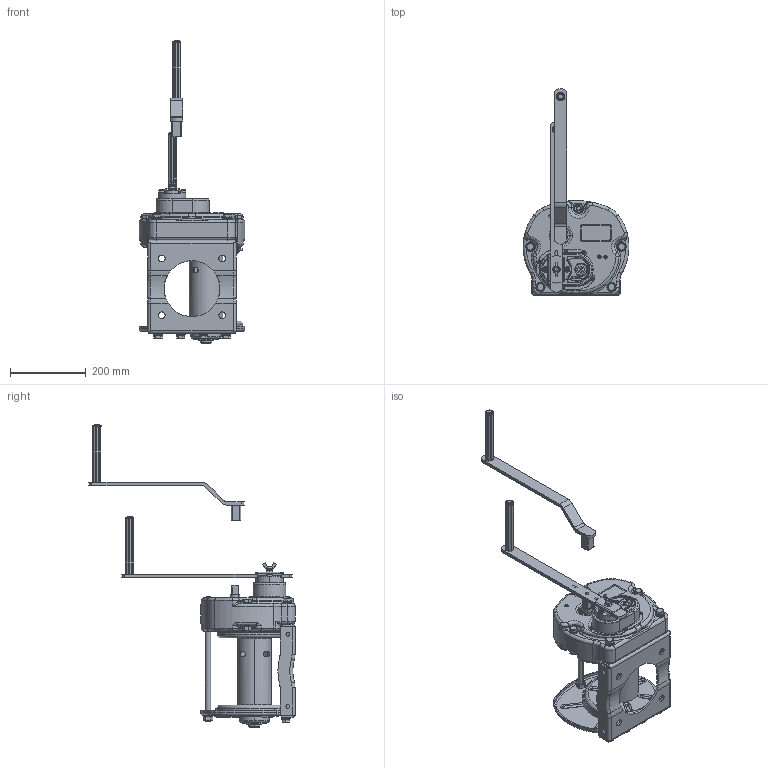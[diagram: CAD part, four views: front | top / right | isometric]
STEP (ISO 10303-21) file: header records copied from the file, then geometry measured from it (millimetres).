
FILE_DESCRIPTION( (''), '2;1');
FILE_NAME ('GM-20-SI.stp','2023-12-21T16:10:59',(''),(''),'spGate 19.8.2 (****-****-****-****)','','');
FILE_SCHEMA (('AUTOMOTIVE_DESIGN'));
Length unit declared in the file: millimetre
Products named in the file (4): Assembly; GM-20-SI-prt0; GM-20-SI-prt1; GM-20-SI-prt2
Assembly tree (3 placements, depth 2):
  Assembly
    GM-20-SI-prt0
    GM-20-SI-prt1
    GM-20-SI-prt2
Bounding box: 279.93 x 545.43 x 801.4 mm (x, y, z)
Volume: 7089589.2 mm3; surface area: 1010719.2 mm2
Topology: 3 solids, 3 shells, 2854 faces, 7409 edges, 4651 vertices
Faces by surface type: plane 1349, cylinder 906, bspline 501, sphere 98
Entity records: 156909 total; most frequent: CARTESIAN_POINT 30376, ORIENTED_EDGE 14662, DIRECTION 14024, COLOUR_RGB 10188, PRESENTATION_STYLE_ASSIGNMENT 10188, STYLED_ITEM 10188, EDGE_CURVE 7331, DRAUGHTING_PRE_DEFINED_CURVE_FONT 7331
